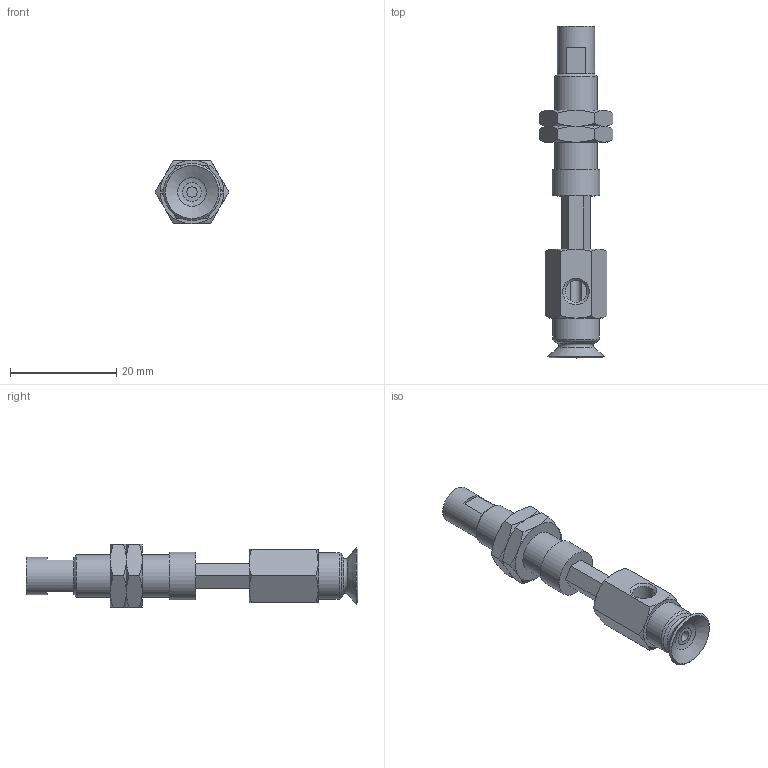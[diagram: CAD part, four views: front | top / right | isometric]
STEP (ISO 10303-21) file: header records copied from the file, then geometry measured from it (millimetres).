
FILE_DESCRIPTION(('STEP AP203'),'1');
FILE_NAME('.stp','2025-04-10T07:22:51',(' '),(' '),'Spatial InterOp 3D',' ',' ');
FILE_SCHEMA(('CONFIG_CONTROL_DESIGN'));
Length unit declared in the file: millimetre
Products named in the file (6): BNABPFYH-10A-10-※; CONNECTOR-H-10A-10; Nut-10A-10-h; NAPFTH-10A-10-FBODY; NAPFTH-10A-10-MBODY; BPFG-10A-※
Assembly tree (6 placements, depth 2):
  BNABPFYH-10A-10-※
    CONNECTOR-H-10A-10
    Nut-10A-10-h  x2
    NAPFTH-10A-10-FBODY
    NAPFTH-10A-10-MBODY
    BPFG-10A-※
Bounding box: 13.86 x 62.5 x 12 mm (x, y, z)
Volume: 3493.6 mm3; surface area: 4237 mm2
Topology: 6 solids, 6 shells, 139 faces, 300 edges, 183 vertices
Faces by surface type: plane 64, cone 51, cylinder 15, torus 8, bspline 1
Full cylindrical faces by diameter (mm): 2 x2, 4 x2, 4.134 x2, 5 x1, 6 x2, 7 x1, 7.188 x2, 8 x1, 8.7 x1, 9 x1
Entity records: 3467 total; most frequent: CARTESIAN_POINT 854, DIRECTION 478, ORIENTED_EDGE 418, EDGE_CURVE 209, AXIS2_PLACEMENT_3D 201, EDGE_LOOP 170, VERTEX_POINT 147, FACE_OUTER_BOUND 139
